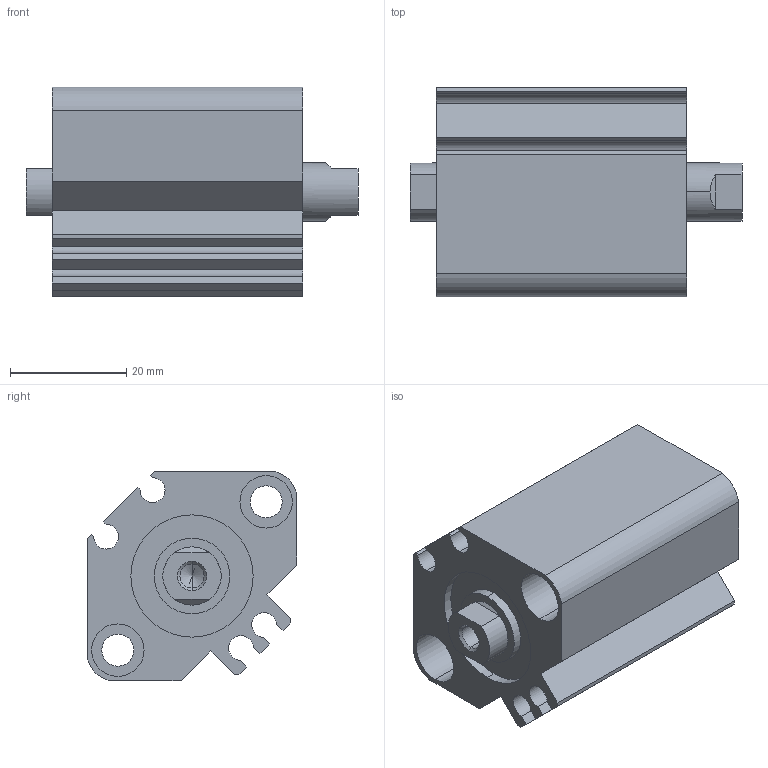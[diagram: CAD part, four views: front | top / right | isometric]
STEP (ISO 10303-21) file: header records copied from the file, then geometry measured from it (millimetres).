
FILE_DESCRIPTION (( 'STEP AP203' ), '1' );
FILE_NAME ('CCMB20-5F-P.STEP', '2020-08-05T11:05:00', ( '' ), ( '' ), 'SwSTEP 2.0', 'SolidWorks 2019', '' );
FILE_SCHEMA (( 'CONFIG_CONTROL_DESIGN' ));
Length unit declared in the file: millimetre
Products named in the file (1): CCMB20-5F-P
Bounding box: 57 x 36 x 36 mm (x, y, z)
Volume: 40485.1 mm3; surface area: 17102.8 mm2
Topology: 2 solids, 2 shells, 114 faces, 276 edges, 178 vertices
Faces by surface type: cylinder 52, plane 50, cone 12
Entity records: 3415 total; most frequent: DIRECTION 606, CARTESIAN_POINT 589, ORIENTED_EDGE 544, EDGE_CURVE 272, AXIS2_PLACEMENT_3D 227, VERTEX_POINT 178, VECTOR 152, LINE 152
